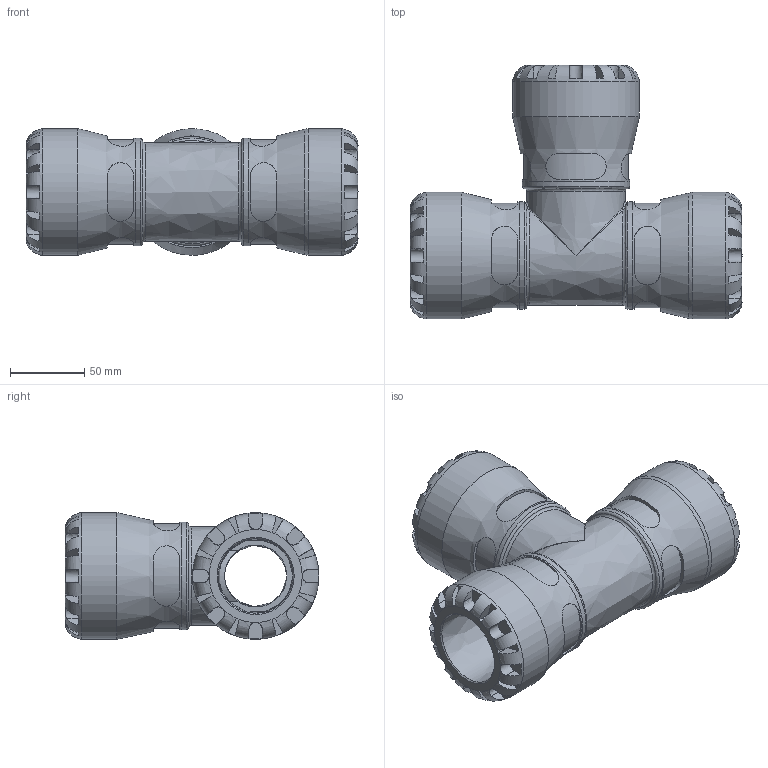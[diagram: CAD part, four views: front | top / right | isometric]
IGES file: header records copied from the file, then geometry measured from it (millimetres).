
Global section: file name: 150400050; native system: Autodesk Inventor 2019; preprocessor: unknown; author: KIM; date: 20231017.192356; units: millimetre
Bounding box: 223 x 170.5 x 85 mm (x, y, z)
Volume: 840167 mm3; surface area: 142921.1 mm2
Topology: 1 solids, 1 shells, 298 faces, 795 edges, 505 vertices
Faces by surface type: bspline 298
